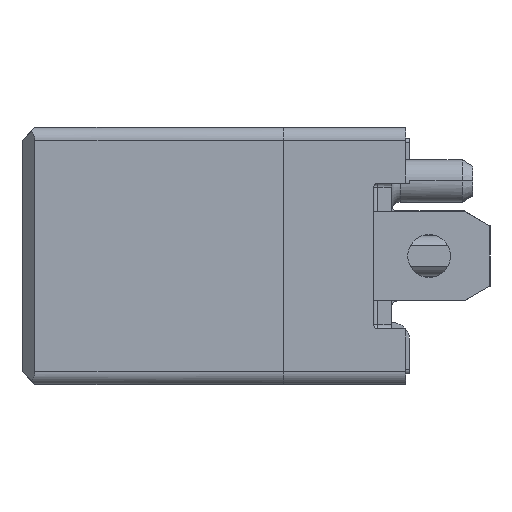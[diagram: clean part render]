
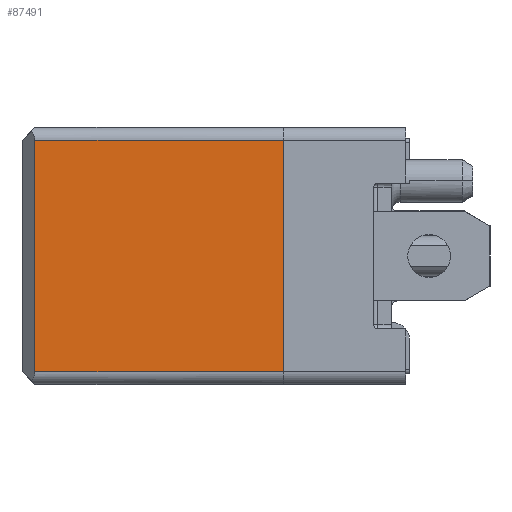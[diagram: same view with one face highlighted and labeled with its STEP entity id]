
A CAD part, left-side view. The second image highlights one B-rep face of the part: STEP entity #87491.
In plain terms, the highlighted planar face has unit normal (-1, 0, 0).
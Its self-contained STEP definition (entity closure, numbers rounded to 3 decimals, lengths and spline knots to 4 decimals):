
#12361=DIRECTION('',(0.,0.,1.));
#12362=VECTOR('',#12361,5.4);
#12363=CARTESIAN_POINT('',(-39.86,2.52,-2.7));
#12364=LINE('',#12363,#12362);
#12414=DIRECTION('',(0.,-1.,0.));
#12415=VECTOR('',#12414,5.8);
#12416=CARTESIAN_POINT('',(-39.86,8.32,-2.7));
#12417=LINE('',#12416,#12415);
#13124=DIRECTION('',(0.,1.,0.));
#13125=VECTOR('',#13124,5.8);
#13126=CARTESIAN_POINT('',(-39.86,2.52,2.7));
#13127=LINE('',#13126,#13125);
#13142=DIRECTION('',(0.,0.,1.));
#13143=VECTOR('',#13142,5.4);
#13144=CARTESIAN_POINT('',(-39.86,8.32,-2.7));
#13145=LINE('',#13144,#13143);
#61123=CARTESIAN_POINT('',(-39.86,2.52,2.7));
#61124=VERTEX_POINT('',#61123);
#61125=CARTESIAN_POINT('',(-39.86,2.52,-2.7));
#61126=VERTEX_POINT('',#61125);
#65873=CARTESIAN_POINT('',(-39.86,8.32,-2.7));
#65874=VERTEX_POINT('',#65873);
#65875=CARTESIAN_POINT('',(-39.86,8.32,2.7));
#65876=VERTEX_POINT('',#65875);
#87479=CARTESIAN_POINT('',(-39.86,5.42,0.));
#87480=DIRECTION('',(1.,0.,0.));
#87481=DIRECTION('',(0.,0.,1.));
#87482=AXIS2_PLACEMENT_3D('',#87479,#87480,#87481);
#87483=PLANE('',#87482);
#87484=ORIENTED_EDGE('',*,*,#87469,.F.);
#87485=ORIENTED_EDGE('',*,*,#86584,.F.);
#87486=ORIENTED_EDGE('',*,*,#86616,.F.);
#87488=ORIENTED_EDGE('',*,*,#87487,.T.);
#87489=EDGE_LOOP('',(#87484,#87485,#87486,#87488));
#87490=FACE_OUTER_BOUND('',#87489,.F.);
#87491=ADVANCED_FACE('',(#87490),#87483,.F.);
#86584=EDGE_CURVE('',#61126,#61124,#12364,.T.);
#86616=EDGE_CURVE('',#65874,#61126,#12417,.T.);
#87469=EDGE_CURVE('',#61124,#65876,#13127,.T.);
#87487=EDGE_CURVE('',#65874,#65876,#13145,.T.);
